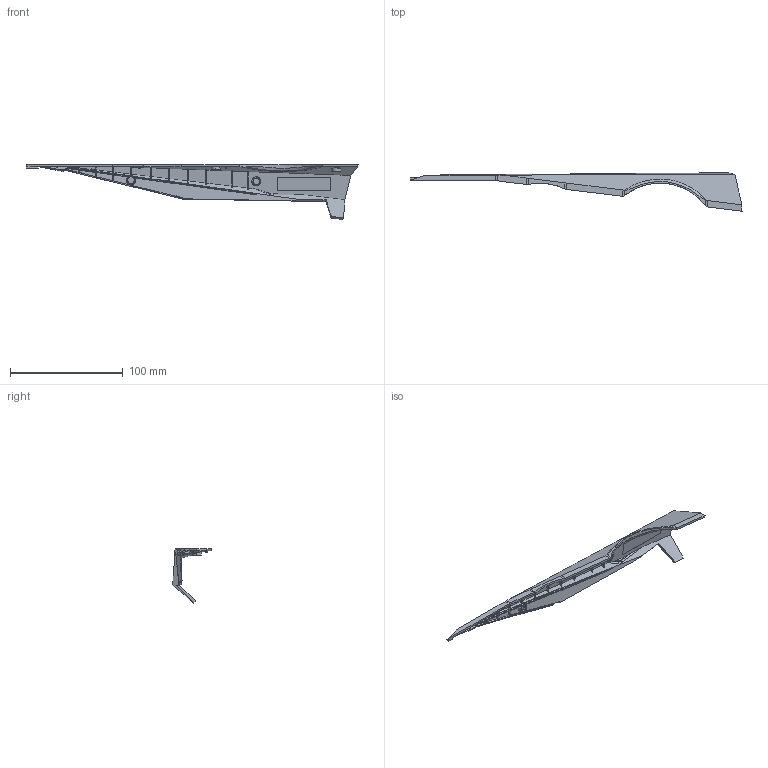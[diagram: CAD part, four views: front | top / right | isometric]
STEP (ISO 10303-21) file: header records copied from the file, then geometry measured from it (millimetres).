
FILE_DESCRIPTION (( 'STEP AP214' ), '1' );
FILE_NAME ('SWFT 2025 No Branding 3625.STEP', '2025-03-07T04:53:34', ( '' ), ( '' ), 'SwSTEP 2.0', 'SolidWorks 2023', '' );
FILE_SCHEMA (( 'AUTOMOTIVE_DESIGN' ));
Length unit declared in the file: millimetre
Products named in the file (1): SWFT 2025 No Branding 3625
Bounding box: 294.4 x 34.16 x 48.6 mm (x, y, z)
Volume: 19369.5 mm3; surface area: 21895.1 mm2
Topology: 1 solids, 1 shells, 218 faces, 639 edges, 434 vertices
Faces by surface type: plane 170, cylinder 17, bspline 15, cone 10, torus 6
Entity records: 9886 total; most frequent: CARTESIAN_POINT 4908, ORIENTED_EDGE 1278, DIRECTION 646, EDGE_CURVE 639, VERTEX_POINT 434, B_SPLINE_CURVE_WITH_KNOTS 421, EDGE_LOOP 229, AXIS2_PLACEMENT_3D 224
